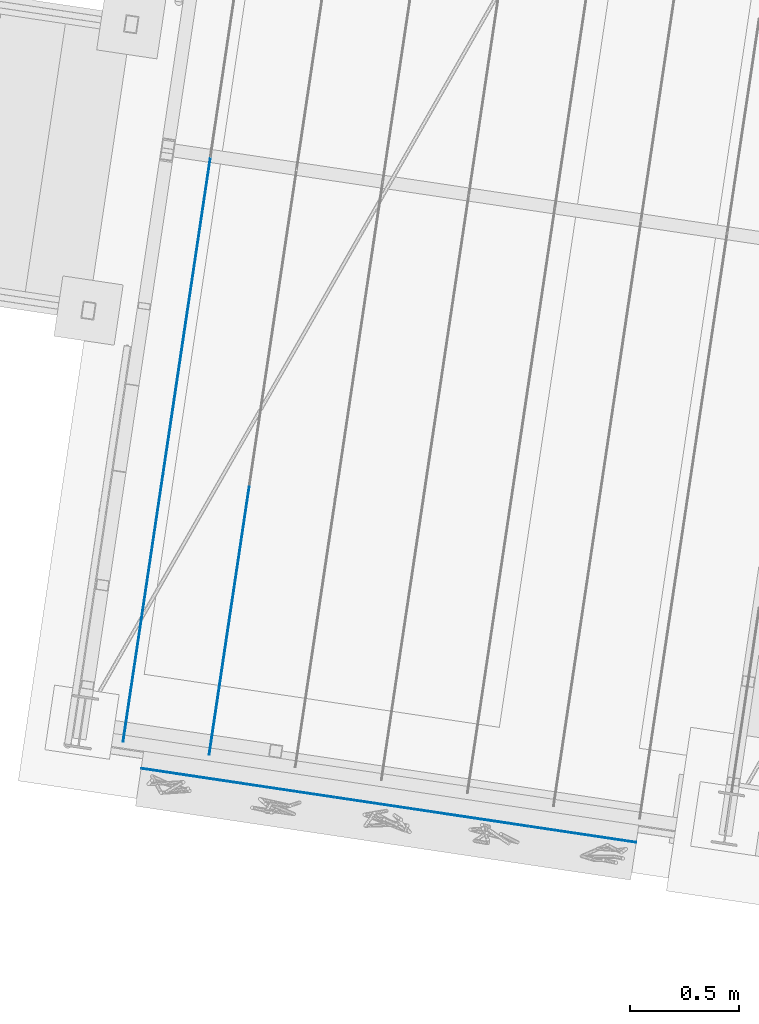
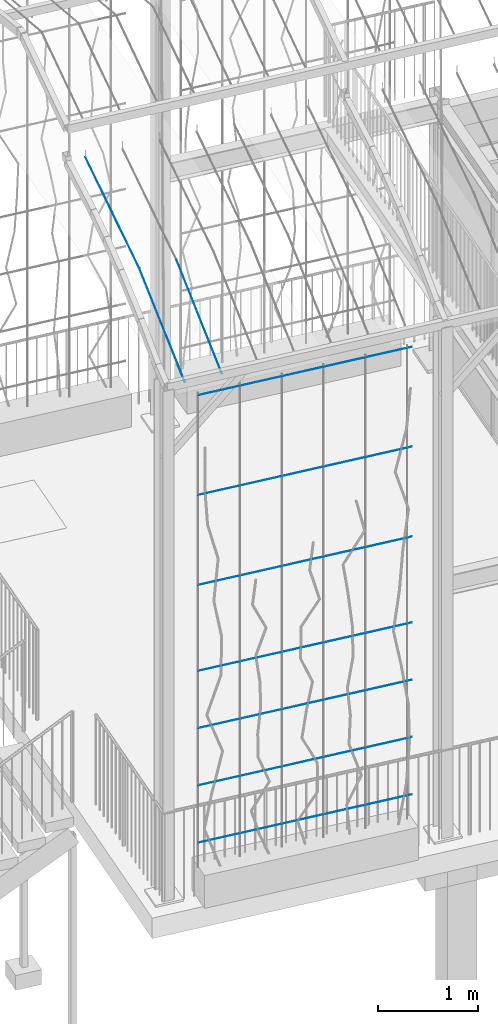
# One storey, part 11 of 143: 10 members, 2 elements without a shape of their own.
"""IFC4 building model written with IfcOpenShell, lengths in metres."""

import ifcopenshell
import ifcopenshell.guid

model = None  # the IFC model being written
_history = None  # IfcOwnerHistory: only IFC2X3 demands one
_inside = {}  # id of a spatial element -> (the spatial element, [elements in it])
_under = {}  # id of a project, library or spatial element -> (it, [spatial elements below it])
_declared = {}  # id of a project -> (the project, [libraries it declares])
_typed = {}  # id of a type object -> (the type object, [elements of that type])
_made_of = {}  # id of a material, layer set ... -> (it, [elements and type objects made of it])


def new_model(schema):
    """Start an empty IFC model of exactly this schema.

    Asked for "IFC4X3", IfcOpenShell would pick the latest addendum, in which some entities
    have other attributes; the version numbers below select the first issue.
    IFC2X3 requires an IfcOwnerHistory on every rooted entity: one is made here for all.
    """
    global model, _history
    if schema == "IFC4X3":
        model = ifcopenshell.file(schema_version=(4, 3, 0, 0))
    else:
        model = ifcopenshell.file(schema=schema)
    _inside.clear()
    _under.clear()
    _declared.clear()
    _typed.clear()
    _made_of.clear()
    _history = None
    if model.schema == "IFC2X3":
        org = make("IfcOrganization", Name="unknown")
        user = make(
            "IfcPersonAndOrganization",
            ThePerson=make("IfcPerson", FamilyName="unknown"),
            TheOrganization=org,
        )
        app = make(
            "IfcApplication",
            ApplicationDeveloper=org,
            Version="unknown",
            ApplicationFullName="unknown",
            ApplicationIdentifier="unknown",
        )
        _history = make(
            "IfcOwnerHistory",
            OwningUser=user,
            OwningApplication=app,
            ChangeAction="ADDED",
            CreationDate=0,
        )
    return model


def make(cls, **values):
    """One entity of the class cls with the attributes given. An attribute that is None is left unset."""
    return model.create_entity(
        cls, **{name: value for name, value in values.items() if value is not None}
    )


def rooted(cls, **values):
    """An entity with a GlobalId (a new one), such as an element, a storey or a relation."""
    return make(cls, GlobalId=ifcopenshell.guid.new(), OwnerHistory=_history, **values)


def si_unit(unit_type, name, prefix=None):
    """IfcSIUnit, for example si_unit("LENGTHUNIT", "METRE", prefix="MILLI")."""
    return make("IfcSIUnit", UnitType=unit_type, Prefix=prefix, Name=name)


def assignment(units):
    """IfcUnitAssignment: the units of a project."""
    return None if units is None else make("IfcUnitAssignment", Units=units)


def point(xyz):
    """IfcCartesianPoint."""
    return None if xyz is None else make("IfcCartesianPoint", Coordinates=xyz)


def direction(xyz):
    """IfcDirection."""
    return None if xyz is None else make("IfcDirection", DirectionRatios=xyz)


def frame(location, z_axis=None, x_axis=None):
    """IfcAxis2Placement3D, a coordinate frame: its origin and axes. An axis left out is left unset."""
    return make(
        "IfcAxis2Placement3D",
        Location=point(location),
        Axis=direction(z_axis),
        RefDirection=direction(x_axis),
    )


def origin_with_axes():
    """The frame at (0, 0, 0) with the z axis (0, 0, 1) and the x axis (1, 0, 0) written out."""
    return frame((0.0, 0.0, 0.0), z_axis=(0.0, 0.0, 1.0), x_axis=(1.0, 0.0, 0.0))


def place(relative_to, where):
    """IfcLocalPlacement: puts the frame where relative to a parent placement (None: the world)."""
    return make(
        "IfcLocalPlacement", PlacementRelTo=relative_to, RelativePlacement=where
    )


def context(
    kind, dimensions, precision=None, world=None, true_north=None, identifier=None
):
    """IfcGeometricRepresentationContext, for example the 3D "Model" context."""
    return make(
        "IfcGeometricRepresentationContext",
        ContextIdentifier=identifier,
        ContextType=kind,
        CoordinateSpaceDimension=dimensions,
        Precision=precision,
        WorldCoordinateSystem=world,
        TrueNorth=true_north,
    )


def subcontext(parent, identifier, kind, view, scale=None):
    """IfcGeometricRepresentationSubContext, for example "Body" below "Model"."""
    return make(
        "IfcGeometricRepresentationSubContext",
        ContextIdentifier=identifier,
        ContextType=kind,
        ParentContext=parent,
        TargetScale=scale,
        TargetView=view,
    )


def project(units=None, contexts=None):
    """IfcProject with its units and contexts."""
    return rooted(
        "IfcProject",
        Name="project",
        RepresentationContexts=contexts,
        UnitsInContext=assignment(units),
    )


def spatial(cls, under=None, at=None, **own):
    """A site, building, storey or space (cls), placed at a placement, below another one or the project."""
    s = rooted(cls, ObjectPlacement=at, **own)
    if under is not None:
        _under.setdefault(under.id(), (under, []))[1].append(s)
    return s


def profile(cls, at=None, kind="AREA", **sizes):
    """A parametric profile (cls). Its sizes go by their IFC names, for example OverallWidth=200.0."""
    return make(cls, ProfileType=kind, Position=at, **sizes)


def circle(**sizes):
    """IfcCircleProfileDef."""
    return profile("IfcCircleProfileDef", **sizes)


def extrude(swept, where, along, depth):
    """IfcExtrudedAreaSolid: the profile swept, set in the frame where, extruded along a direction by depth."""
    return make(
        "IfcExtrudedAreaSolid",
        SweptArea=swept,
        Position=where,
        ExtrudedDirection=direction(along),
        Depth=depth,
    )


def shape(context_of_items, identifier, shape_type, items):
    """IfcShapeRepresentation: the items that make up one representation, for example the "Body"."""
    return make(
        "IfcShapeRepresentation",
        ContextOfItems=context_of_items,
        RepresentationIdentifier=identifier,
        RepresentationType=shape_type,
        Items=items,
    )


def material(Name=None, Category=None):
    """IfcMaterial."""
    return make("IfcMaterial", Name=Name, Category=Category)


def material_profile(
    of_material, cross_section, Name=None, Category=None, Priority=None
):
    """IfcMaterialProfile: a cross section and its material."""
    return make(
        "IfcMaterialProfile",
        Name=Name,
        Material=of_material,
        Profile=cross_section,
        Priority=Priority,
        Category=Category,
    )


def profile_set(profiles, Name=None, composite=None):
    """IfcMaterialProfileSet."""
    return make(
        "IfcMaterialProfileSet",
        Name=Name,
        MaterialProfiles=profiles,
        CompositeProfile=composite,
    )


def profile_usage(for_profile_set, cardinal=None, extent=None):
    """IfcMaterialProfileSetUsage: how a profile set lies along its element."""
    return make(
        "IfcMaterialProfileSetUsage",
        ForProfileSet=for_profile_set,
        CardinalPoint=cardinal,
        ReferenceExtent=extent,
    )


def made_of(thing, what):
    """Note that an element or type object is made of a material, layer set ...; save() writes the relation."""
    if what is not None:
        _made_of.setdefault(what.id(), (what, []))[1].append(thing)
    return thing


def type_object(cls, material=None, **own):
    """A type object (cls), such as IfcWallType, which elements share."""
    return made_of(rooted(cls, **own), material)


def element(
    cls,
    number,
    at=None,
    inside=None,
    cuts=None,
    type_object=None,
    material=None,
    context=None,
    identifier="Body",
    shape_type=None,
    held_by="IfcProductDefinitionShape",
    body=None,
    shapes=None,
    **own,
):
    """One element of the class cls, such as IfcWall. Its Tag is "e" and its number.

    at: its placement. inside: the storey or other place that contains it. cuts: it is an
    opening in that element (IfcRelVoidsElement). A single representation is given by context,
    identifier, shape_type and body (its items); several are given by shapes. held_by: the class
    of the entity that holds the representations. save() writes the other relations.
    """
    e = rooted(cls, Tag="e%d" % number, ObjectPlacement=at, **own)
    if body is not None:
        shapes = [shape(context, identifier, shape_type, body)]
    if shapes is not None:
        e.Representation = make(held_by, Representations=shapes)
    if inside is not None:
        _inside.setdefault(inside.id(), (inside, []))[1].append(e)
    if cuts is not None:
        rooted(
            "IfcRelVoidsElement", RelatingBuildingElement=cuts, RelatedOpeningElement=e
        )
    if type_object is not None:
        _typed.setdefault(type_object.id(), (type_object, []))[1].append(e)
    return made_of(e, material)


def aggregate(whole, parts):
    """IfcRelAggregates: a whole, such as a stair, and the parts it consists of."""
    return rooted("IfcRelAggregates", RelatingObject=whole, RelatedObjects=parts)


def save(model, path):
    """Write the relations noted so far, then the file.

    IfcRelAggregates (storeys below a building ...), IfcRelContainedInSpatialStructure (elements
    in a storey), IfcRelDefinesByType, IfcRelAssociatesMaterial and IfcRelDeclares: one each for
    every whole, place, type object, material and project.
    """
    for whole, parts in _under.values():
        aggregate(whole, parts)
    for where, things in _inside.values():
        rooted(
            "IfcRelContainedInSpatialStructure",
            RelatedElements=things,
            RelatingStructure=where,
        )
    for kind, things in _typed.values():
        rooted("IfcRelDefinesByType", RelatedObjects=things, RelatingType=kind)
    for what, things in _made_of.values():
        rooted("IfcRelAssociatesMaterial", RelatedObjects=things, RelatingMaterial=what)
    for by, libraries in _declared.values():
        rooted("IfcRelDeclares", RelatingContext=by, RelatedDefinitions=libraries)
    model.write(path)


model = new_model("IFC4")

# Units and contexts
model_context = context("Model", 3, precision=1e-05, world=origin_with_axes(), true_north=direction((0.0, 1.0)))
body_context = subcontext(model_context, "Body", "Model", "MODEL_VIEW")
ifc_project = project(units=[si_unit("VOLUMEUNIT", "CUBIC_METRE"), si_unit("LENGTHUNIT", "METRE"), si_unit("AREAUNIT", "SQUARE_METRE")], contexts=[model_context])

# Site, building, storey
site_placement = place(None, origin_with_axes())
site = spatial("IfcSite", under=ifc_project, at=site_placement, Name="Lares · Rua das Mercês · artigo 4771")
building_placement = place(site_placement, frame((15.0, 9.7, 15.8), z_axis=(0.0, 0.0, 1.0), x_axis=(0.989015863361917, -0.147809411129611, 0.0)))
building = spatial("IfcBuilding", under=site, at=building_placement, Name="Casa Sobreposta")
storey_placement = place(building_placement, origin_with_axes())
storey = spatial("IfcBuildingStorey", under=building, at=storey_placement, Name="00 · Habitação e estacionamento", Elevation=15.8)

# Assembly, members
assembly_1_placement = place(storey_placement, origin_with_axes())
assembly_1 = element("IfcElementAssembly", 1, at=assembly_1_placement, inside=storey, Name="Pérgola · prolongamento da estufa 6 m", ObjectType="PERGOLA_GREENHOUSE_EXTENSION", PredefinedType="USERDEFINED")
ifc_material = material(Name="Aço galvanizado / Stahl verzinkt", Category="steel")
ifc_material_profile = material_profile(ifc_material, circle(Radius=0.002))
ifc_profile_set = profile_set([ifc_material_profile], Name="D0.004")
ifc_profile_usage_1 = profile_usage(ifc_profile_set)
member_type = type_object("IfcMemberType", Name="D0.004 / galvanized", PredefinedType="NOTDEFINED", material=ifc_profile_set)
member_1_placement = place(assembly_1_placement, frame((-5.8, -1.5, 6.23430000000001), z_axis=(0.0, 0.905876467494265, 0.423541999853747), x_axis=(1.0, 0.0, 0.0)))
member_1 = element("IfcMember", 2, at=member_1_placement, type_object=member_type, material=ifc_profile_usage_1, Name="Pérgola · fio para trepadeiras", context=body_context, shape_type="SweptSolid", body=[
    extrude(circle(Radius=0.002), origin_with_axes(), (0.0, 0.0, 1.0), 1.37271642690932),
])
ifc_profile_usage_2 = profile_usage(ifc_profile_set)
member_2_placement = place(assembly_1_placement, frame((-5.8, -0.256488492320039, 6.81570306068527), z_axis=(0.0, 0.96535496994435, 0.260940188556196), x_axis=(1.0, 0.0, 0.0)))
member_2 = element("IfcMember", 3, at=member_2_placement, type_object=member_type, material=ifc_profile_usage_2, Name="Pérgola · fio para trepadeiras", context=body_context, shape_type="SweptSolid", body=[
    extrude(circle(Radius=0.002), origin_with_axes(), (0.0, 0.0, 1.0), 1.52368621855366),
])
ifc_profile_usage_3 = profile_usage(ifc_profile_set)
member_3_placement = place(assembly_1_placement, frame((-5.4, -1.5, 6.23430000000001), z_axis=(0.0, 0.905876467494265, 0.423541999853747), x_axis=(1.0, 0.0, 0.0)))
member_3 = element("IfcMember", 4, at=member_3_placement, type_object=member_type, material=ifc_profile_usage_3, Name="Pérgola · fio para trepadeiras", context=body_context, shape_type="SweptSolid", body=[
    extrude(circle(Radius=0.002), origin_with_axes(), (0.0, 0.0, 1.0), 1.37271642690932),
])
aggregate(assembly_1, [member_1, member_2, member_3])

assembly_2_placement = place(storey_placement, origin_with_axes())
assembly_2 = element("IfcElementAssembly", 5, at=assembly_2_placement, inside=storey, Name="Fachada sul e pátio · estrutura e trepadeiras", ObjectType="LIVING_SHADE_TRELLIS", PredefinedType="USERDEFINED")
ifc_profile_usage_4 = profile_usage(ifc_profile_set)
member_4_placement = place(assembly_2_placement, frame((-5.7, -1.61, 0.65), z_axis=(1.0, 0.0, 0.0), x_axis=(0.0, -1.0, 0.0)))
member_4 = element("IfcMember", 6, at=member_4_placement, type_object=member_type, material=ifc_profile_usage_4, Name="Trepadeiras · fio horizontal", context=body_context, shape_type="SweptSolid", body=[
    extrude(circle(Radius=0.002), origin_with_axes(), (0.0, 0.0, 1.0), 2.3),
])
ifc_profile_usage_5 = profile_usage(ifc_profile_set)
member_5_placement = place(assembly_2_placement, frame((-5.7, -1.61, 1.35), z_axis=(1.0, 0.0, 0.0), x_axis=(0.0, -1.0, 0.0)))
member_5 = element("IfcMember", 7, at=member_5_placement, type_object=member_type, material=ifc_profile_usage_5, Name="Trepadeiras · fio horizontal", context=body_context, shape_type="SweptSolid", body=[
    extrude(circle(Radius=0.002), origin_with_axes(), (0.0, 0.0, 1.0), 2.3),
])
ifc_profile_usage_6 = profile_usage(ifc_profile_set)
member_6_placement = place(assembly_2_placement, frame((-5.7, -1.61, 2.05), z_axis=(1.0, 0.0, 0.0), x_axis=(0.0, -1.0, 0.0)))
member_6 = element("IfcMember", 8, at=member_6_placement, type_object=member_type, material=ifc_profile_usage_6, Name="Trepadeiras · fio horizontal", context=body_context, shape_type="SweptSolid", body=[
    extrude(circle(Radius=0.002), origin_with_axes(), (0.0, 0.0, 1.0), 2.3),
])
ifc_profile_usage_7 = profile_usage(ifc_profile_set)
member_7_placement = place(assembly_2_placement, frame((-5.7, -1.61, 2.75), z_axis=(1.0, 0.0, 0.0), x_axis=(0.0, -1.0, 0.0)))
member_7 = element("IfcMember", 9, at=member_7_placement, type_object=member_type, material=ifc_profile_usage_7, Name="Trepadeiras · fio horizontal", context=body_context, shape_type="SweptSolid", body=[
    extrude(circle(Radius=0.002), origin_with_axes(), (0.0, 0.0, 1.0), 2.3),
])
ifc_profile_usage_8 = profile_usage(ifc_profile_set)
member_8_placement = place(assembly_2_placement, frame((-5.7, -1.61, 3.8), z_axis=(1.0, 0.0, 0.0), x_axis=(0.0, -1.0, 0.0)))
member_8 = element("IfcMember", 10, at=member_8_placement, type_object=member_type, material=ifc_profile_usage_8, Name="Trepadeiras · fio horizontal", context=body_context, shape_type="SweptSolid", body=[
    extrude(circle(Radius=0.002), origin_with_axes(), (0.0, 0.0, 1.0), 2.3),
])
ifc_profile_usage_9 = profile_usage(ifc_profile_set)
member_9_placement = place(assembly_2_placement, frame((-5.7, -1.61, 4.9), z_axis=(1.0, 0.0, 0.0), x_axis=(0.0, -1.0, 0.0)))
member_9 = element("IfcMember", 11, at=member_9_placement, type_object=member_type, material=ifc_profile_usage_9, Name="Trepadeiras · fio horizontal", context=body_context, shape_type="SweptSolid", body=[
    extrude(circle(Radius=0.002), origin_with_axes(), (0.0, 0.0, 1.0), 2.3),
])
ifc_profile_usage_10 = profile_usage(ifc_profile_set)
member_10_placement = place(assembly_2_placement, frame((-5.7, -1.61, 6.12), z_axis=(1.0, 0.0, 0.0), x_axis=(0.0, -1.0, 0.0)))
member_10 = element("IfcMember", 12, at=member_10_placement, type_object=member_type, material=ifc_profile_usage_10, Name="Trepadeiras · fio horizontal", context=body_context, shape_type="SweptSolid", body=[
    extrude(circle(Radius=0.002), origin_with_axes(), (0.0, 0.0, 1.0), 2.3),
])
aggregate(assembly_2, [member_4, member_5, member_6, member_7, member_8, member_9, member_10])

save(model, "model.ifc")
